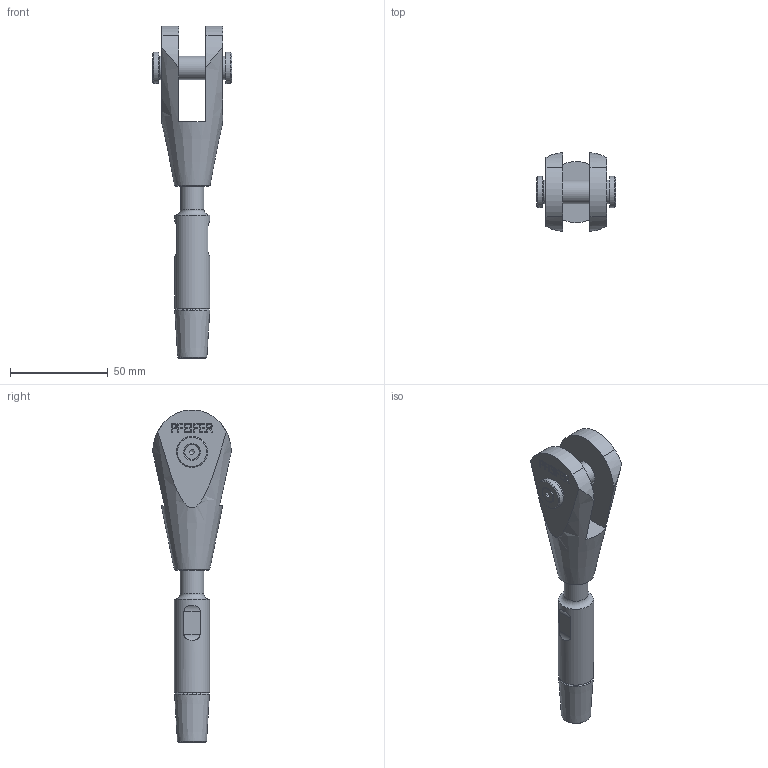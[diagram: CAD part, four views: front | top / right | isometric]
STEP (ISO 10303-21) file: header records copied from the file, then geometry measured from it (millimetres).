
FILE_DESCRIPTION(/* description */ (''),/* implementation_level */ '2;1');
FILE_NAME(/* name */ 'G:\Engineering\700 CAD\Internet-PX-1-step-igs-dxf\520-GAK-ADA-Arbeitsdateien\520-012-GAK-ADA.stp',/* time_stamp */ '2020-07-03T13:03:32+02:00',/* author */ ('schwarz'),/* organization */ (''),/* preprocessor_version */ 'ST-DEVELOPER v16.1',/* originating_system */ 'Autodesk Inventor 2016',/* authorisation */ '');
FILE_SCHEMA (('AUTOMOTIVE_DESIGN { 1 0 10303 214 3 1 1 }'));
Length unit declared in the file: centimetre
Products named in the file (1): 520-012-GAK-ADA-Kunde
Bounding box: 40.78 x 40.25 x 169.94 mm (x, y, z)
Volume: 60130.3 mm3; surface area: 19352.6 mm2
Topology: 2 solids, 3 shells, 197 faces, 508 edges, 337 vertices
Faces by surface type: plane 139, cylinder 22, bspline 21, cone 14, torus 1
Full cylindrical faces by diameter (mm): 3.242 x1, 4 x1, 4.5 x1, 7.53 x1, 12 x2, 12.6 x1, 13.5 x2, 16 x2, 18 x1
Entity records: 6131 total; most frequent: CARTESIAN_POINT 1401, ORIENTED_EDGE 942, DIRECTION 808, EDGE_CURVE 471, LINE 356, VECTOR 356, VERTEX_POINT 327, EDGE_LOOP 248
